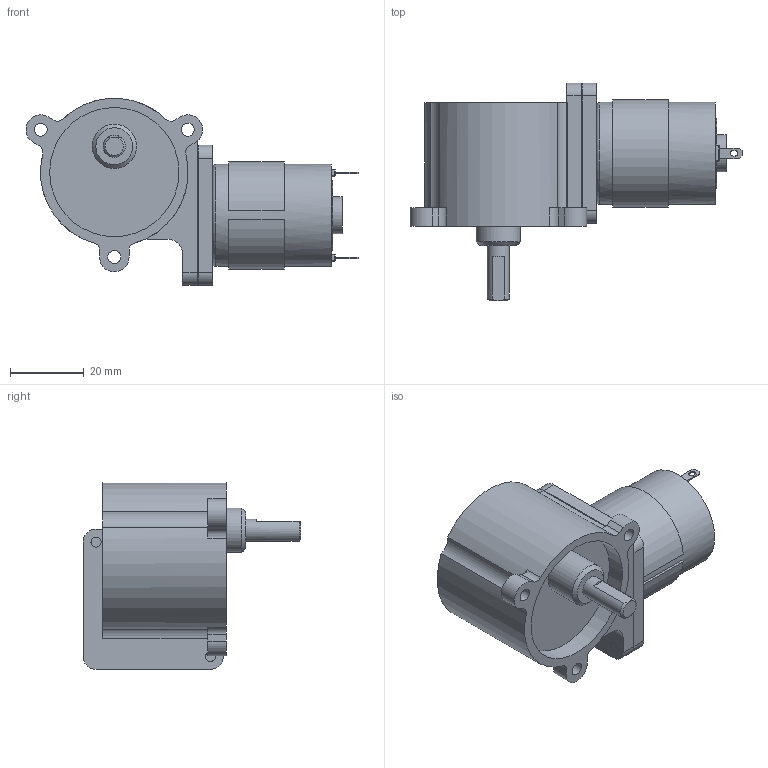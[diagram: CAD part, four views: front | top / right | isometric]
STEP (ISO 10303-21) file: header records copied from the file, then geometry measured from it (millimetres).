
FILE_DESCRIPTION(/* description */ (''),/* implementation_level */ '2;1');
FILE_NAME(/* name */ 'TP-2932#-KW.stp',/* time_stamp */ '2023-12-11T17:11:53+09:00',/* author */ ('user'),/* organization */ (''),/* preprocessor_version */ 'ST-DEVELOPER v19.2',/* originating_system */ 'Autodesk Inventor 2024',/* authorisation */ '');
FILE_SCHEMA (('AUTOMOTIVE_DESIGN { 1 0 10303 214 3 1 1 }'));
Length unit declared in the file: millimetre
Products named in the file (3): TP-2932#-KW-J00-24; kw; TP-2932#(RS-365PH)
Assembly tree (2 placements, depth 2):
  TP-2932#-KW-J00-24
    kw
    TP-2932#(RS-365PH)
Bounding box: 89.92 x 59 x 50.63 mm (x, y, z)
Volume: 71980.4 mm3; surface area: 15995.4 mm2
Topology: 2 solids, 2 shells, 194 faces, 445 edges, 287 vertices
Faces by surface type: plane 114, cylinder 71, cone 5, torus 4
Full cylindrical faces by diameter (mm): 2 x3, 2.113 x2, 2.3 x2, 2.5 x5, 2.75 x2, 3.5 x3, 6 x3, 9 x2, 10 x3, 12 x1, 19 x1, 26.7 x1, 27.7 x1, 35 x1
Entity records: 5712 total; most frequent: DIRECTION 1009, CARTESIAN_POINT 933, ORIENTED_EDGE 886, EDGE_CURVE 443, AXIS2_PLACEMENT_3D 369, VERTEX_POINT 287, LINE 271, VECTOR 271
